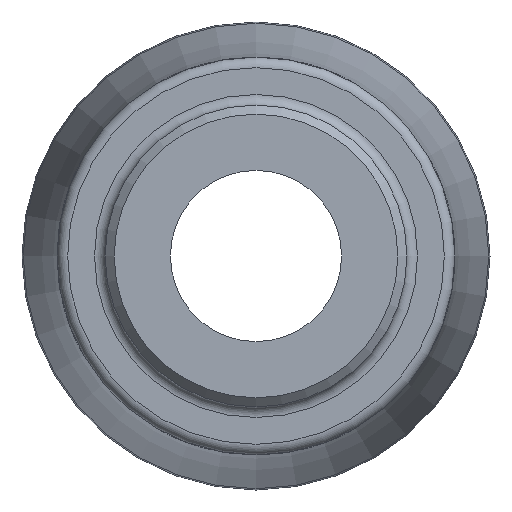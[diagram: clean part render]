
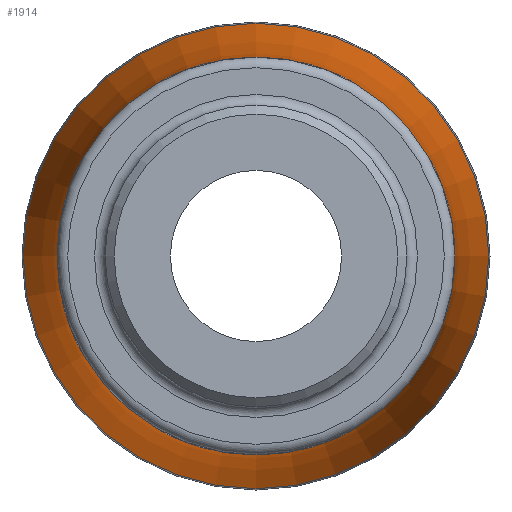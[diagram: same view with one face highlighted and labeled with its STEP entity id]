
A CAD part, left-side view. The second image highlights one B-rep face of the part: STEP entity #1914.
In plain terms, the highlighted toroidal (fillet/blend) face has major radius 129.728 mm and minor radius 112.303 mm.
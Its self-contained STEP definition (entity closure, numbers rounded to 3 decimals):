
#18=TOROIDAL_SURFACE('',#2162,129.728,112.303);
#363=FACE_OUTER_BOUND('',#478,.T.);
#478=EDGE_LOOP('',(#1798,#1799,#1800,#1801,#1802,#1803,#1804));
#668=CIRCLE('',#1943,17.425);
#669=CIRCLE('',#1944,17.425);
#670=CIRCLE('',#1945,17.425);
#737=CIRCLE('',#2043,20.392);
#738=CIRCLE('',#2044,20.392);
#785=CIRCLE('',#2163,112.303);
#791=VERTEX_POINT('',#2731);
#792=VERTEX_POINT('',#2732);
#793=VERTEX_POINT('',#2734);
#876=VERTEX_POINT('',#3236);
#877=VERTEX_POINT('',#3238);
#974=EDGE_CURVE('',#791,#792,#668,.T.);
#975=EDGE_CURVE('',#793,#791,#669,.T.);
#977=EDGE_CURVE('',#792,#793,#670,.T.);
#1084=EDGE_CURVE('',#876,#877,#737,.T.);
#1085=EDGE_CURVE('',#877,#876,#738,.T.);
#1246=EDGE_CURVE('',#792,#876,#785,.T.);
#1798=ORIENTED_EDGE('',*,*,#974,.T.);
#1799=ORIENTED_EDGE('',*,*,#1246,.T.);
#1800=ORIENTED_EDGE('',*,*,#1085,.F.);
#1801=ORIENTED_EDGE('',*,*,#1084,.F.);
#1802=ORIENTED_EDGE('',*,*,#1246,.F.);
#1803=ORIENTED_EDGE('',*,*,#977,.T.);
#1804=ORIENTED_EDGE('',*,*,#975,.T.);
#1914=ADVANCED_FACE('',(#363),#18,.F.);
#1943=AXIS2_PLACEMENT_3D('',#2733,#2183,#2184);
#1944=AXIS2_PLACEMENT_3D('',#2735,#2185,#2186);
#1945=AXIS2_PLACEMENT_3D('',#2737,#2188,#2189);
#2043=AXIS2_PLACEMENT_3D('',#3239,#2408,#2409);
#2044=AXIS2_PLACEMENT_3D('',#3240,#2410,#2411);
#2162=AXIS2_PLACEMENT_3D('',#4198,#2712,#2713);
#2163=AXIS2_PLACEMENT_3D('',#4199,#2714,#2715);
#2183=DIRECTION('center_axis',(1.,0.,0.));
#2184=DIRECTION('ref_axis',(0.,0.,-1.));
#2185=DIRECTION('center_axis',(1.,0.,0.));
#2186=DIRECTION('ref_axis',(0.,0.,-1.));
#2188=DIRECTION('center_axis',(1.,0.,0.));
#2189=DIRECTION('ref_axis',(0.,0.,-1.));
#2408=DIRECTION('center_axis',(1.,0.,0.));
#2409=DIRECTION('ref_axis',(0.,-1.,0.));
#2410=DIRECTION('center_axis',(1.,0.,0.));
#2411=DIRECTION('ref_axis',(0.,-1.,0.));
#2712=DIRECTION('center_axis',(1.,0.,0.));
#2713=DIRECTION('ref_axis',(0.,0.,-1.));
#2714=DIRECTION('center_axis',(0.,-1.,0.));
#2715=DIRECTION('ref_axis',(0.,0.,1.));
#2731=CARTESIAN_POINT('',(51.,17.425,0.));
#2732=CARTESIAN_POINT('',(51.,0.,17.425));
#2733=CARTESIAN_POINT('Origin',(51.,0.,0.));
#2734=CARTESIAN_POINT('',(51.,-17.425,0.));
#2735=CARTESIAN_POINT('Origin',(51.,0.,0.));
#2737=CARTESIAN_POINT('Origin',(51.,0.,0.));
#3236=CARTESIAN_POINT('',(76.642,0.,20.392));
#3238=CARTESIAN_POINT('',(76.642,20.392,0.));
#3239=CARTESIAN_POINT('Origin',(76.642,0.,0.));
#3240=CARTESIAN_POINT('Origin',(76.642,0.,0.));
#4198=CARTESIAN_POINT('Origin',(51.,0.,0.));
#4199=CARTESIAN_POINT('Origin',(51.,0.,129.728));
